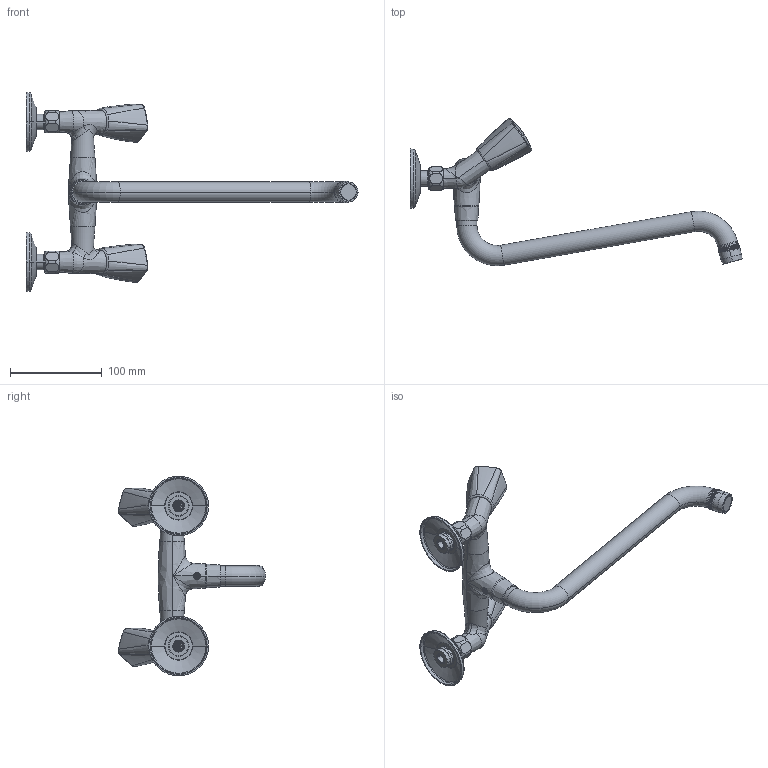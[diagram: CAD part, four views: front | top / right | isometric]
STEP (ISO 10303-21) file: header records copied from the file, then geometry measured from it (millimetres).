
FILE_DESCRIPTION((''),'2;1');
FILE_NAME('500635_ASM','2020-06-08T10:40:10',('LF994'),(''),'CREO PARAMETRIC BY PTC INC, 2018500','CREO PARAMETRIC BY PTC INC, 2018500','');
FILE_SCHEMA(('CONFIG_CONTROL_DESIGN'));
Length unit declared in the file: millimetre
Products named in the file (38): 612722; 607086; 507859_ASM; 607027; 607481; 607482; 603026; 601966; 603712; 601972; 600780; 600777; 600022; 604882; 501546_ASM; 600025; 616467; 608705; 509581_ASM; 607490_AF0; 606868_AF0; 607489_AF0; 600270; 600271; 504903_AF0_ASM; 607490_AF1; 606868_AF1; 607489_AF1; 504903_AF1_ASM; 606011; 600101_636982; 600639; 504537_530728_ASM; 600518; 601939; 600529; 40_1003-1008_23; 500635_ASM
Assembly tree (43 placements, depth 3):
  500635_ASM
    507859_ASM
      612722
      607086  x2
    501546_ASM  x2
      607027
      607481
      607482
      603026
      601966
      603712
      601972
      600780
      600777
      600022
      604882
    600025
    509581_ASM  x2
      616467
      608705
    504903_AF0_ASM
      607490_AF0
      606868_AF0
      607489_AF0
      600270
      600271
    504903_AF1_ASM
      607490_AF1
      606868_AF1
      607489_AF1
      600270
      600271
    504537_530728_ASM
      606011
      600101_636982
      600639
    600518
    601939  x2
    600529
    40_1003-1008_23
Bounding box: 361.68 x 160.56 x 217.6 mm (x, y, z)
Volume: 245228.6 mm3; surface area: 178047.4 mm2
Topology: 48 solids, 48 shells, 2224 faces, 5479 edges, 3408 vertices
Faces by surface type: cylinder 749, plane 699, cone 324, torus 272, bspline 174, sphere 4, revolution 2
Entity records: 67274 total; most frequent: CARTESIAN_POINT 35343, ORIENTED_EDGE 6606, DIRECTION 6567, EDGE_CURVE 3303, AXIS2_PLACEMENT_3D 2755, VERTEX_POINT 2046, EDGE_LOOP 1475, CIRCLE 1397
